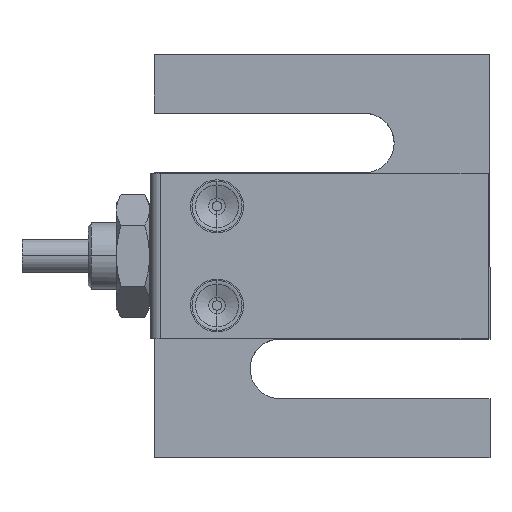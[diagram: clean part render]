
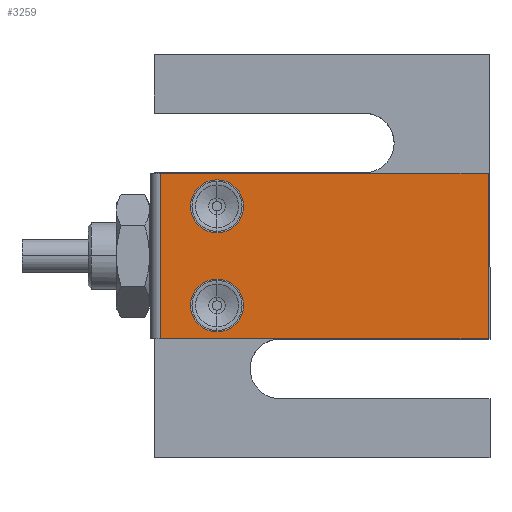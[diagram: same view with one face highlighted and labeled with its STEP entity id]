
A CAD part, top view. The second image highlights one B-rep face of the part: STEP entity #3259.
In plain terms, the highlighted planar face has unit normal (0, 0, 1) as drawn and (0, 0, -1) by its records, which use the part's own axes.
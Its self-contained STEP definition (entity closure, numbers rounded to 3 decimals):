
#615 = CIRCLE ( 'NONE', #621, 4. ) ;
#621 = AXIS2_PLACEMENT_3D ( 'NONE', #4383, #4384, #4385 ) ;
#628 = CIRCLE ( 'NONE', #633, 4. ) ;
#633 = AXIS2_PLACEMENT_3D ( 'NONE', #4407, #4408, #4409 ) ;
#647 = VECTOR ( 'NONE', #4460, 1000. ) ;
#649 = CIRCLE ( 'NONE', #651, 4. ) ;
#650 = CIRCLE ( 'NONE', #653, 4. ) ;
#651 = AXIS2_PLACEMENT_3D ( 'NONE', #4446, #4447, #4448 ) ;
#652 = VECTOR ( 'NONE', #4454, 1000. ) ;
#653 = AXIS2_PLACEMENT_3D ( 'NONE', #4451, #4452, #4453 ) ;
#654 = VECTOR ( 'NONE', #4458, 1000. ) ;
#656 = VECTOR ( 'NONE', #4463, 1000. ) ;
#834 = AXIS2_PLACEMENT_3D ( 'NONE', #4853, #4849, #4857 ) ;
#1090 = EDGE_LOOP ( 'NONE', ( #1936, #1937 ) ) ;
#1936 = ORIENTED_EDGE ( 'NONE', *, *, #3144, .T. ) ;
#1937 = ORIENTED_EDGE ( 'NONE', *, *, #3123, .T. ) ;
#1938 = ORIENTED_EDGE ( 'NONE', *, *, #3145, .T. ) ;
#1939 = ORIENTED_EDGE ( 'NONE', *, *, #3131, .T. ) ;
#1940 = ORIENTED_EDGE ( 'NONE', *, *, #3146, .F. ) ;
#1941 = ORIENTED_EDGE ( 'NONE', *, *, #3147, .T. ) ;
#1942 = ORIENTED_EDGE ( 'NONE', *, *, #3148, .T. ) ;
#1943 = ORIENTED_EDGE ( 'NONE', *, *, #3149, .F. ) ;
#2264 = VERTEX_POINT ( 'NONE', #3855 ) ;
#2270 = VERTEX_POINT ( 'NONE', #3861 ) ;
#2272 = VERTEX_POINT ( 'NONE', #3863 ) ;
#2278 = VERTEX_POINT ( 'NONE', #3869 ) ;
#2285 = VERTEX_POINT ( 'NONE', #3876 ) ;
#2286 = VERTEX_POINT ( 'NONE', #3877 ) ;
#2303 = VERTEX_POINT ( 'NONE', #3894 ) ;
#2304 = VERTEX_POINT ( 'NONE', #3895 ) ;
#2337 = EDGE_LOOP ( 'NONE', ( #1938, #1939 ) ) ;
#2339 = EDGE_LOOP ( 'NONE', ( #1940, #1941, #1942, #1943 ) ) ;
#3123 = EDGE_CURVE ( 'NONE', #2272, #2278, #615, .T. ) ;
#3131 = EDGE_CURVE ( 'NONE', #2285, #2286, #628, .T. ) ;
#3144 = EDGE_CURVE ( 'NONE', #2278, #2272, #649, .T. ) ;
#3145 = EDGE_CURVE ( 'NONE', #2286, #2285, #650, .T. ) ;
#3146 = EDGE_CURVE ( 'NONE', #2270, #2264, #4444, .T. ) ;
#3147 = EDGE_CURVE ( 'NONE', #2270, #2303, #4455, .T. ) ;
#3148 = EDGE_CURVE ( 'NONE', #2303, #2304, #4450, .T. ) ;
#3149 = EDGE_CURVE ( 'NONE', #2264, #2304, #4461, .T. ) ;
#3259 = ADVANCED_FACE ( 'NONE', ( #4852, #4846, #4855 ), #4856, .F. ) ;
#3855 = CARTESIAN_POINT ( 'NONE',  ( -25.5, 25., -10.6 ) ) ;
#3861 = CARTESIAN_POINT ( 'NONE',  ( 24., 25., -10.6 ) ) ;
#3863 = CARTESIAN_POINT ( 'NONE',  ( 11.5, 5., -10.6 ) ) ;
#3869 = CARTESIAN_POINT ( 'NONE',  ( 19.5, 5., -10.6 ) ) ;
#3876 = CARTESIAN_POINT ( 'NONE',  ( 11.5, 20., -10.6 ) ) ;
#3877 = CARTESIAN_POINT ( 'NONE',  ( 19.5, 20., -10.6 ) ) ;
#3894 = CARTESIAN_POINT ( 'NONE',  ( 24., 0., -10.6 ) ) ;
#3895 = CARTESIAN_POINT ( 'NONE',  ( -25.5, 0., -10.6 ) ) ;
#4383 = CARTESIAN_POINT ( 'NONE',  ( 15.5, 5., -10.6 ) ) ;
#4384 = DIRECTION ( 'NONE',  ( 0., 0., 1. ) ) ;
#4385 = DIRECTION ( 'NONE',  ( 1., 0., 0. ) ) ;
#4407 = CARTESIAN_POINT ( 'NONE',  ( 15.5, 20., -10.6 ) ) ;
#4408 = DIRECTION ( 'NONE',  ( 0., 0., 1. ) ) ;
#4409 = DIRECTION ( 'NONE',  ( 1., 0., 0. ) ) ;
#4444 = LINE ( 'NONE', #4445, #652 ) ;
#4445 = CARTESIAN_POINT ( 'NONE',  ( -25.5, 25., -10.6 ) ) ;
#4446 = CARTESIAN_POINT ( 'NONE',  ( 15.5, 5., -10.6 ) ) ;
#4447 = DIRECTION ( 'NONE',  ( 0., 0., 1. ) ) ;
#4448 = DIRECTION ( 'NONE',  ( 1., 0., 0. ) ) ;
#4450 = LINE ( 'NONE', #4459, #647 ) ;
#4451 = CARTESIAN_POINT ( 'NONE',  ( 15.5, 20., -10.6 ) ) ;
#4452 = DIRECTION ( 'NONE',  ( 0., 0., 1. ) ) ;
#4453 = DIRECTION ( 'NONE',  ( 1., 0., 0. ) ) ;
#4454 = DIRECTION ( 'NONE',  ( -1., 0., 0. ) ) ;
#4455 = LINE ( 'NONE', #4457, #654 ) ;
#4457 = CARTESIAN_POINT ( 'NONE',  ( 24., 25., -10.6 ) ) ;
#4458 = DIRECTION ( 'NONE',  ( 0., -1., 0. ) ) ;
#4459 = CARTESIAN_POINT ( 'NONE',  ( -25.5, 0., -10.6 ) ) ;
#4460 = DIRECTION ( 'NONE',  ( -1., 0., 0. ) ) ;
#4461 = LINE ( 'NONE', #4462, #656 ) ;
#4462 = CARTESIAN_POINT ( 'NONE',  ( -25.5, 25., -10.6 ) ) ;
#4463 = DIRECTION ( 'NONE',  ( 0., -1., 0. ) ) ;
#4846 = FACE_BOUND ( 'NONE', #2337, .T. ) ;
#4849 = DIRECTION ( 'NONE',  ( 0., 0., 1. ) ) ;
#4852 = FACE_BOUND ( 'NONE', #1090, .T. ) ;
#4853 = CARTESIAN_POINT ( 'NONE',  ( -25.5, 25., -10.6 ) ) ;
#4855 = FACE_OUTER_BOUND ( 'NONE', #2339, .T. ) ;
#4856 = PLANE ( 'NONE',  #834 ) ;
#4857 = DIRECTION ( 'NONE',  ( 1., 0., 0. ) ) ;
